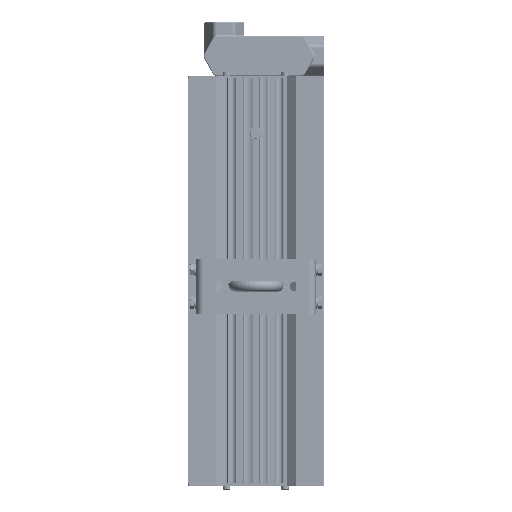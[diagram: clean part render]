
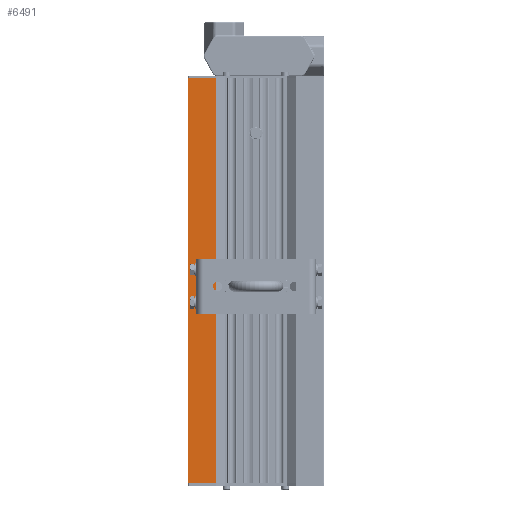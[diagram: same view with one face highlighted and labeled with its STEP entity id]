
A CAD part, top view. The second image highlights one B-rep face of the part: STEP entity #6491.
In plain terms, the highlighted planar face has unit normal (0, 0, 1).
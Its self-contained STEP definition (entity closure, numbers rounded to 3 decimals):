
#1039=CARTESIAN_POINT('',(-61.65,370.0,26.85));
#1040=VERTEX_POINT('',#1039);
#1048=CARTESIAN_POINT('',(-36.5,370.0,26.85));
#1049=VERTEX_POINT('',#1048);
#1050=CARTESIAN_POINT('',(-61.65,370.0,26.85));
#1051=DIRECTION('',(1.0,0.0,0.0));
#1052=VECTOR('',#1051,25.15);
#1053=LINE('',#1050,#1052);
#1054=EDGE_CURVE('',#1040,#1049,#1053,.T.);
#4051=CARTESIAN_POINT('',(-36.5,0.0,26.85));
#4052=VERTEX_POINT('',#4051);
#4059=CARTESIAN_POINT('',(-61.65,0.0,26.85));
#4060=VERTEX_POINT('',#4059);
#4061=CARTESIAN_POINT('',(-36.5,0.0,26.85));
#4062=DIRECTION('',(-1.0,0.0,0.0));
#4063=VECTOR('',#4062,25.15);
#4064=LINE('',#4061,#4063);
#4065=EDGE_CURVE('',#4052,#4060,#4064,.T.);
#5321=CARTESIAN_POINT('',(-61.65,0.0,26.85));
#5322=DIRECTION('',(0.0,1.0,0.0));
#5323=VECTOR('',#5322,370.0);
#5324=LINE('',#5321,#5323);
#5325=EDGE_CURVE('',#4060,#1040,#5324,.T.);
#6469=CARTESIAN_POINT('',(-36.5,0.0,26.85));
#6470=DIRECTION('',(0.0,1.0,0.0));
#6471=VECTOR('',#6470,370.0);
#6472=LINE('',#6469,#6471);
#6473=EDGE_CURVE('',#4052,#1049,#6472,.T.);
#6480=CARTESIAN_POINT('',(-36.5,0.0,26.85));
#6481=DIRECTION('',(0.0,0.0,1.0));
#6482=DIRECTION('',(1.0,0.0,0.0));
#6483=AXIS2_PLACEMENT_3D('',#6480,#6481,#6482);
#6484=PLANE('',#6483);
#6485=ORIENTED_EDGE('',*,*,#5325,.F.);
#6486=ORIENTED_EDGE('',*,*,#4065,.F.);
#6487=ORIENTED_EDGE('',*,*,#6473,.T.);
#6488=ORIENTED_EDGE('',*,*,#1054,.F.);
#6489=EDGE_LOOP('',(#6485,#6486,#6487,#6488));
#6490=FACE_OUTER_BOUND('',#6489,.T.);
#6491=ADVANCED_FACE('',(#6490),#6484,.T.);
